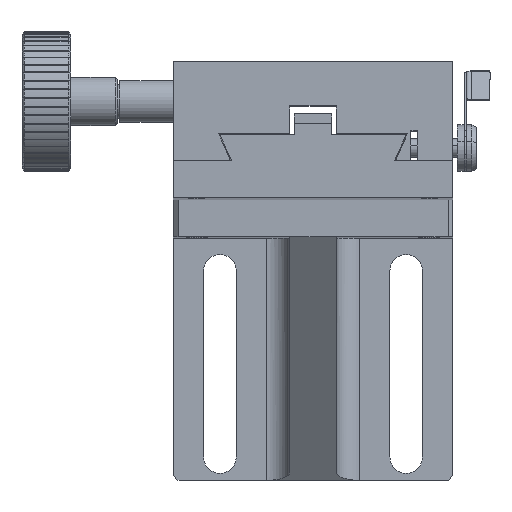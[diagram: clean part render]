
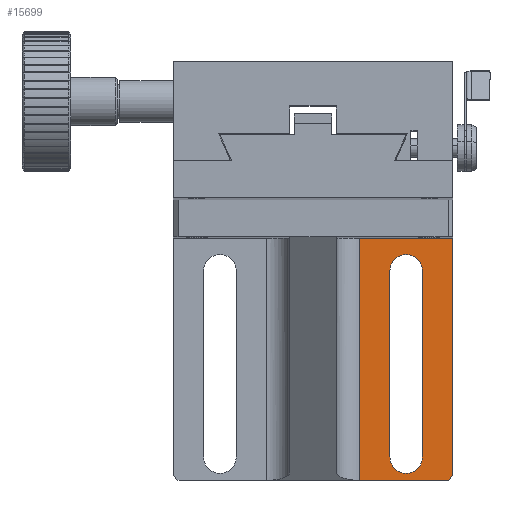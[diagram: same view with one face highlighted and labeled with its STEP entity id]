
A CAD part, top view. The second image highlights one B-rep face of the part: STEP entity #15699.
In plain terms, the highlighted planar face has unit normal (0, 0, 1) as drawn and (0, 1, 0) by its records, which use the part's own axes.
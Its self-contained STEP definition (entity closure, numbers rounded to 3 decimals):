
#115 = VECTOR ( 'NONE', #32651, 1000. ) ;
#279 = VECTOR ( 'NONE', #28054, 1000. ) ;
#1648 = EDGE_CURVE ( 'NONE', #6685, #10391, #17439, .T. ) ;
#2064 = PLANE ( 'NONE',  #5304 ) ;
#2498 = VERTEX_POINT ( 'NONE', #16398 ) ;
#2899 = EDGE_CURVE ( 'NONE', #19811, #10391, #20440, .T. ) ;
#3210 = DIRECTION ( 'NONE',  ( 0., 0., 1. ) ) ;
#3332 = DIRECTION ( 'NONE',  ( 0., -1., 0. ) ) ;
#3721 = EDGE_CURVE ( 'NONE', #36049, #16653, #27117, .T. ) ;
#4109 = DIRECTION ( 'NONE',  ( -1., 0., 0. ) ) ;
#5304 = AXIS2_PLACEMENT_3D ( 'NONE', #14001, #34204, #25465 ) ;
#6258 = CARTESIAN_POINT ( 'NONE',  ( -15., 8., 20. ) ) ;
#6685 = VERTEX_POINT ( 'NONE', #18682 ) ;
#6766 = DIRECTION ( 'NONE',  ( 0.707, 0., 0.707 ) ) ;
#6894 = LINE ( 'NONE', #26937, #115 ) ;
#6997 = CARTESIAN_POINT ( 'NONE',  ( -15., 8., 23.5 ) ) ;
#7912 = EDGE_LOOP ( 'NONE', ( #32648, #25298, #28676, #28925 ) ) ;
#7951 = CARTESIAN_POINT ( 'NONE',  ( 0., 8., 30. ) ) ;
#7992 = VECTOR ( 'NONE', #13698, 1000. ) ;
#8335 = VECTOR ( 'NONE', #4109, 1000. ) ;
#8644 = EDGE_CURVE ( 'NONE', #19811, #2498, #15576, .T. ) ;
#9717 = ORIENTED_EDGE ( 'NONE', *, *, #33242, .T. ) ;
#10192 = CARTESIAN_POINT ( 'NONE',  ( -55., 8., 23.5 ) ) ;
#10391 = VERTEX_POINT ( 'NONE', #18305 ) ;
#11482 = ORIENTED_EDGE ( 'NONE', *, *, #1648, .F. ) ;
#11771 = EDGE_CURVE ( 'NONE', #16653, #30966, #6894, .T. ) ;
#12309 = CARTESIAN_POINT ( 'NONE',  ( -8., 8., -30. ) ) ;
#13698 = DIRECTION ( 'NONE',  ( -1., 0., 0. ) ) ;
#14001 = CARTESIAN_POINT ( 'NONE',  ( -60., 8., -30. ) ) ;
#15306 = DIRECTION ( 'NONE',  ( 0., 0., -1. ) ) ;
#15576 = LINE ( 'NONE', #19537, #279 ) ;
#15699 = ADVANCED_FACE ( 'NONE', ( #33126, #17376 ), #2064, .T. ) ;
#16022 = CARTESIAN_POINT ( 'NONE',  ( -60., 8., 10. ) ) ;
#16398 = CARTESIAN_POINT ( 'NONE',  ( -60., 8., 10. ) ) ;
#16522 = DIRECTION ( 'NONE',  ( -1., 0., 0. ) ) ;
#16653 = VERTEX_POINT ( 'NONE', #32517 ) ;
#16662 = CARTESIAN_POINT ( 'NONE',  ( -15., 8., 16.5 ) ) ;
#16930 = VECTOR ( 'NONE', #16522, 1000. ) ;
#17376 = FACE_OUTER_BOUND ( 'NONE', #22557, .T. ) ;
#17439 = LINE ( 'NONE', #7951, #7992 ) ;
#18305 = CARTESIAN_POINT ( 'NONE',  ( -59., 8., 30. ) ) ;
#18682 = CARTESIAN_POINT ( 'NONE',  ( -8., 8., 30. ) ) ;
#19537 = CARTESIAN_POINT ( 'NONE',  ( -60., 8., -30. ) ) ;
#19705 = CARTESIAN_POINT ( 'NONE',  ( -55., 8., 20. ) ) ;
#19811 = VERTEX_POINT ( 'NONE', #23115 ) ;
#20440 = LINE ( 'NONE', #26975, #24042 ) ;
#20943 = ORIENTED_EDGE ( 'NONE', *, *, #2899, .T. ) ;
#21144 = EDGE_CURVE ( 'NONE', #6685, #27215, #26258, .T. ) ;
#21623 = CIRCLE ( 'NONE', #35884, 3.5 ) ;
#22557 = EDGE_LOOP ( 'NONE', ( #36374, #9717, #35965, #20943, #11482 ) ) ;
#23012 = EDGE_CURVE ( 'NONE', #30966, #27646, #21623, .T. ) ;
#23115 = CARTESIAN_POINT ( 'NONE',  ( -60., 8., 29. ) ) ;
#23757 = CARTESIAN_POINT ( 'NONE',  ( -8., 8., 10. ) ) ;
#24042 = VECTOR ( 'NONE', #6766, 1000. ) ;
#25298 = ORIENTED_EDGE ( 'NONE', *, *, #34543, .T. ) ;
#25465 = DIRECTION ( 'NONE',  ( 0., 0., 1. ) ) ;
#26258 = LINE ( 'NONE', #12309, #30311 ) ;
#26937 = CARTESIAN_POINT ( 'NONE',  ( -55., 8., 16.5 ) ) ;
#26975 = CARTESIAN_POINT ( 'NONE',  ( -59., 8., 30. ) ) ;
#27117 = CIRCLE ( 'NONE', #35735, 3.5 ) ;
#27215 = VERTEX_POINT ( 'NONE', #23757 ) ;
#27646 = VERTEX_POINT ( 'NONE', #6997 ) ;
#28054 = DIRECTION ( 'NONE',  ( 0., 0., -1. ) ) ;
#28154 = LINE ( 'NONE', #16022, #16930 ) ;
#28676 = ORIENTED_EDGE ( 'NONE', *, *, #3721, .T. ) ;
#28925 = ORIENTED_EDGE ( 'NONE', *, *, #11771, .T. ) ;
#30311 = VECTOR ( 'NONE', #15306, 1000. ) ;
#30966 = VERTEX_POINT ( 'NONE', #16662 ) ;
#31731 = LINE ( 'NONE', #35353, #8335 ) ;
#32517 = CARTESIAN_POINT ( 'NONE',  ( -55., 8., 16.5 ) ) ;
#32648 = ORIENTED_EDGE ( 'NONE', *, *, #23012, .T. ) ;
#32651 = DIRECTION ( 'NONE',  ( 1., 0., 0. ) ) ;
#33126 = FACE_BOUND ( 'NONE', #7912, .T. ) ;
#33242 = EDGE_CURVE ( 'NONE', #27215, #2498, #28154, .T. ) ;
#33696 = DIRECTION ( 'NONE',  ( 0., -1., 0. ) ) ;
#34081 = DIRECTION ( 'NONE',  ( 0., 0., 1. ) ) ;
#34204 = DIRECTION ( 'NONE',  ( 0., 1., 0. ) ) ;
#34543 = EDGE_CURVE ( 'NONE', #27646, #36049, #31731, .T. ) ;
#35353 = CARTESIAN_POINT ( 'NONE',  ( -55., 8., 23.5 ) ) ;
#35735 = AXIS2_PLACEMENT_3D ( 'NONE', #19705, #33696, #34081 ) ;
#35884 = AXIS2_PLACEMENT_3D ( 'NONE', #6258, #3332, #3210 ) ;
#35965 = ORIENTED_EDGE ( 'NONE', *, *, #8644, .F. ) ;
#36049 = VERTEX_POINT ( 'NONE', #10192 ) ;
#36374 = ORIENTED_EDGE ( 'NONE', *, *, #21144, .T. ) ;
